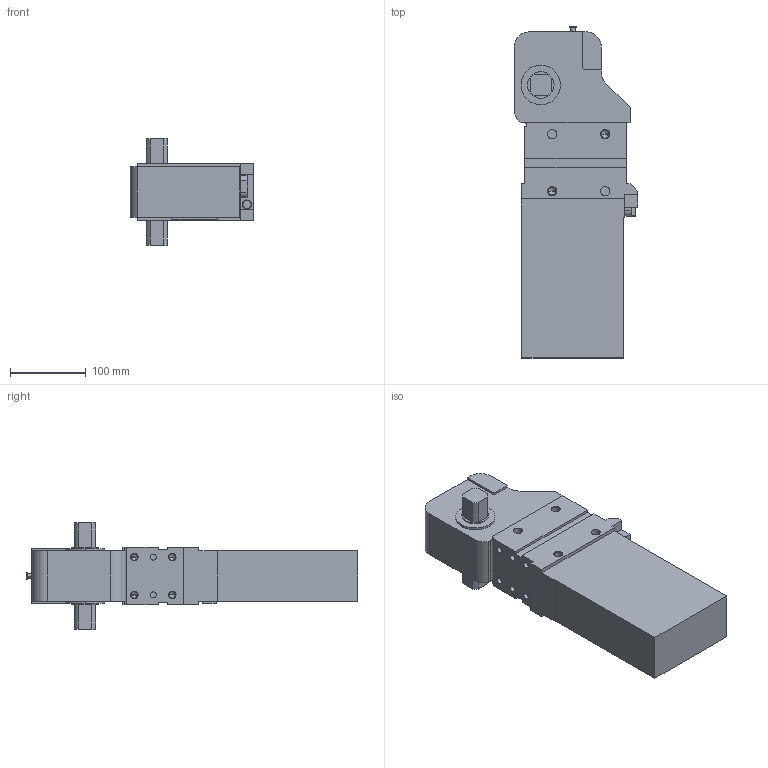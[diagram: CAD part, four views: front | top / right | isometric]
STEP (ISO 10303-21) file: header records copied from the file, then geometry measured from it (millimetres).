
FILE_DESCRIPTION((''),'2;1');
FILE_NAME('001_82M_3E_MASTER_ASM','2023-09-21T',('SYSTEM'),(''),'PRO/ENGINEER BY PARAMETRIC TECHNOLOGY CORPORATION, 2016360','PRO/ENGINEER BY PARAMETRIC TECHNOLOGY CORPORATION, 2016360','');
FILE_SCHEMA(('AUTOMOTIVE_DESIGN { 1 0 10303 214 1 1 1 1 }'));
Length unit declared in the file: millimetre
Products named in the file (4): 80_WOH_BODY; 80_23_CLAMP_ARM; L8; 001_82M_3E_MASTER_ASM
Assembly tree (3 placements, depth 2):
  001_82M_3E_MASTER_ASM
    80_WOH_BODY
    80_23_CLAMP_ARM
    L8
Bounding box: 163 x 437.8 x 140 mm (x, y, z)
Volume: 3951178.1 mm3; surface area: 239431 mm2
Topology: 3 solids, 7 shells, 265 faces, 626 edges, 371 vertices
Faces by surface type: plane 94, cylinder 91, cone 80
Entity records: 9445 total; most frequent: DIRECTION 1358, CARTESIAN_POINT 1241, ORIENTED_EDGE 1176, PRESENTATION_STYLE_ASSIGNMENT 593, STYLED_ITEM 591, CURVE_STYLE 588, EDGE_CURVE 588, AXIS2_PLACEMENT_3D 498
